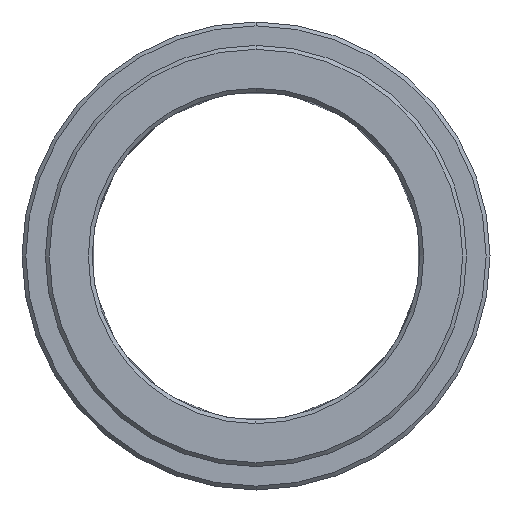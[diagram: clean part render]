
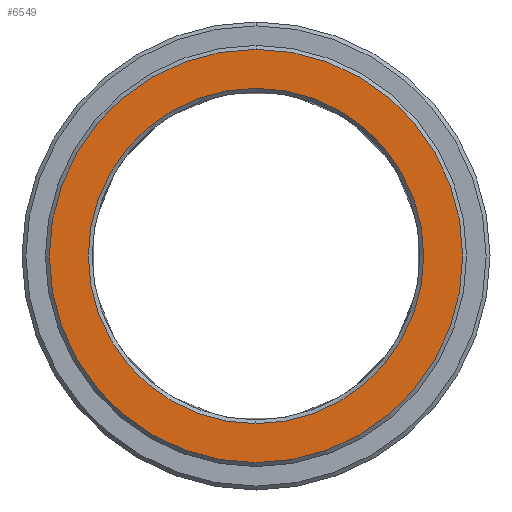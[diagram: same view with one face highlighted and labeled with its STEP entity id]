
A CAD part, left-side view. The second image highlights one B-rep face of the part: STEP entity #6549.
In plain terms, the highlighted planar face has unit normal (-1, 0, 0).
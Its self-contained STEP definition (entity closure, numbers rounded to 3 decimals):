
#4410=CARTESIAN_POINT('',(-10.,0.,
0.));
#4411=DIRECTION('',(1.,0.,0.));
#4412=DIRECTION('',(0.,0.,1.));
#4413=AXIS2_PLACEMENT_3D('',#4410,#4411,#4412);
#4415=CARTESIAN_POINT('',(-10.,0.,
0.));
#4416=DIRECTION('',(1.,0.,0.));
#4417=DIRECTION('',(0.,0.,-1.));
#4418=AXIS2_PLACEMENT_3D('',#4415,#4416,#4417);
#4420=CARTESIAN_POINT('',(-10.,0.,0.));
#4421=DIRECTION('',(1.,0.,0.));
#4422=DIRECTION('',(0.,0.,1.));
#4423=AXIS2_PLACEMENT_3D('',#4420,#4421,#4422);
#4425=CARTESIAN_POINT('',(-10.,0.,0.));
#4426=DIRECTION('',(1.,0.,0.));
#4427=DIRECTION('',(0.,0.,-1.));
#4428=AXIS2_PLACEMENT_3D('',#4425,#4426,#4427);
#4706=CARTESIAN_POINT('',(-10.,0.,21.5));
#4707=CARTESIAN_POINT('',(-10.,0.,
-21.5));
#4708=VERTEX_POINT('',#4706);
#4709=VERTEX_POINT('',#4707);
#4714=CARTESIAN_POINT('',(-10.,0.,26.5));
#4715=CARTESIAN_POINT('',(-10.,0.,
-26.5));
#4716=VERTEX_POINT('',#4714);
#4717=VERTEX_POINT('',#4715);
#6534=CARTESIAN_POINT('',(-10.,0.,0.));
#6535=DIRECTION('',(1.,0.,0.));
#6536=DIRECTION('',(0.,0.,1.));
#6537=AXIS2_PLACEMENT_3D('',#6534,#6535,#6536);
#6538=PLANE('',#6537);
#6539=ORIENTED_EDGE('',*,*,#6501,.T.);
#6540=ORIENTED_EDGE('',*,*,#6516,.T.);
#6541=EDGE_LOOP('',(#6539,#6540));
#6542=FACE_OUTER_BOUND('',#6541,.F.);
#6544=ORIENTED_EDGE('',*,*,#6543,.F.);
#6546=ORIENTED_EDGE('',*,*,#6545,.F.);
#6547=EDGE_LOOP('',(#6544,#6546));
#6548=FACE_BOUND('',#6547,.F.);
#6549=ADVANCED_FACE('',(#6542,#6548),#6538,.F.);
#4414=CIRCLE('',#4413,26.5);
#4419=CIRCLE('',#4418,26.5);
#4424=CIRCLE('',#4423,21.5);
#4429=CIRCLE('',#4428,21.5);
#6501=EDGE_CURVE('',#4716,#4717,#4414,.T.);
#6516=EDGE_CURVE('',#4717,#4716,#4419,.T.);
#6543=EDGE_CURVE('',#4708,#4709,#4424,.T.);
#6545=EDGE_CURVE('',#4709,#4708,#4429,.T.);
